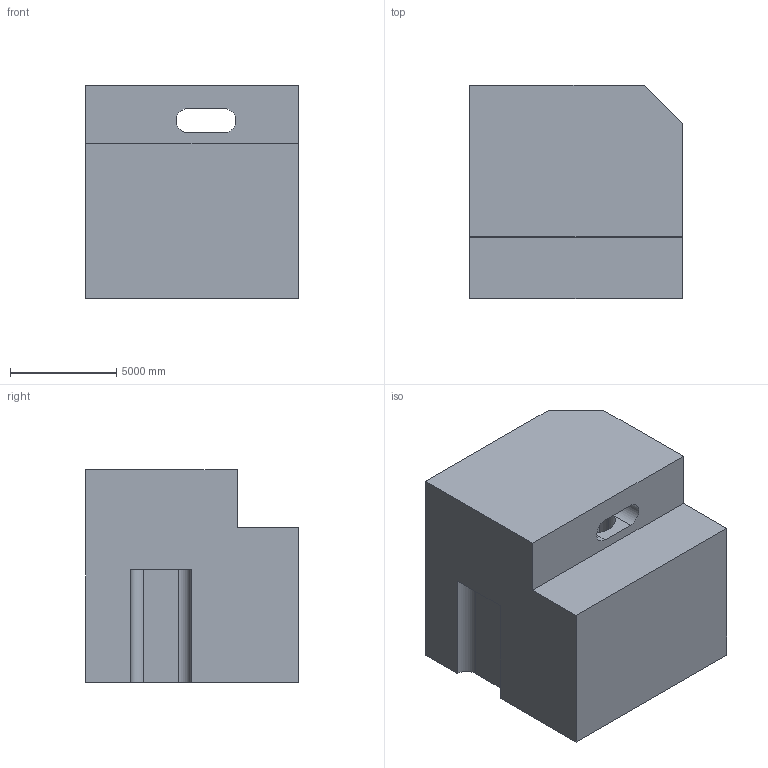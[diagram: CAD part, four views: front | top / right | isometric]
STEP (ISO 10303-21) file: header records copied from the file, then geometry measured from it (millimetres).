
FILE_DESCRIPTION (( 'STEP AP203' ), '1' );
FILE_NAME ('80.STEP', '2022-08-31T11:26:51', ( 'user' ), ( '' ), 'SwSTEP 2.0', 'SolidWorks 2021', '' );
FILE_SCHEMA (( 'CONFIG_CONTROL_DESIGN' ));
Length unit declared in the file: centimetre
Products named in the file (1): 80
Bounding box: 10000 x 10000 x 10000 mm (x, y, z)
Volume: 851248586672.6 mm3; surface area: 679062501.9 mm2
Topology: 2 solids, 2 shells, 27 faces, 69 edges, 46 vertices
Faces by surface type: plane 17, cylinder 10
Entity records: 1041 total; most frequent: CARTESIAN_POINT 292, ORIENTED_EDGE 138, DIRECTION 137, EDGE_CURVE 69, AXIS2_PLACEMENT_3D 46, VERTEX_POINT 46, LINE 45, VECTOR 45
